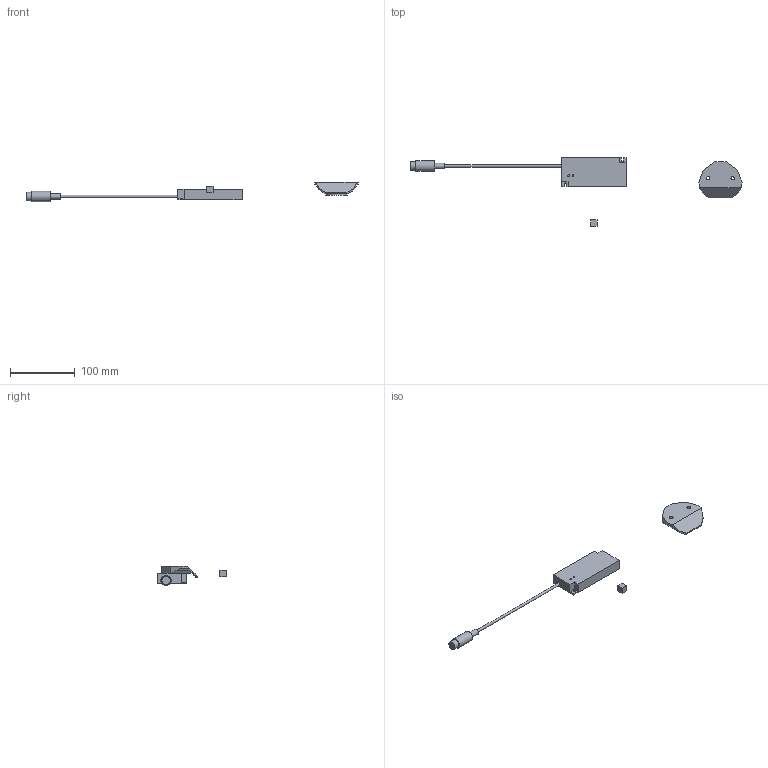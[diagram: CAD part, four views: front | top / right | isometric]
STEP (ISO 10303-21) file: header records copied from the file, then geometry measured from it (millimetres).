
FILE_DESCRIPTION( ( 'STEP AP214' ), '1' );
FILE_NAME( 'C:/Users/KOSH/Desktop/2021/Delta - cabinet interior/9258029.stp', '2021-04-09T13:22:06', ( '' ), ( '' ), ' ', 'PARTsolutions', ' ' );
FILE_SCHEMA( ( 'AUTOMOTIVE_DESIGN { 1 0 10303 214 1 1 1 1 }' ) );
Length unit declared in the file: millimetre
Products named in the file (4): 187857263 9258029_1; _9258029_1; _betribsanleitung; _9142067
Assembly tree (3 placements, depth 2):
  187857263 9258029_1
    _9258029_1
    _betribsanleitung
    _9142067
Bounding box: 514.75 x 106.5 x 29.96 mm (x, y, z)
Volume: 115198.7 mm3; surface area: 28104.9 mm2
Topology: 3 solids, 3 shells, 68 faces, 170 edges, 114 vertices
Faces by surface type: plane 55, cylinder 13
Full cylindrical faces by diameter (mm): 2.5 x1, 3 x1, 3.9 x1, 5.25 x2, 8.82 x1, 13.2 x1, 15.93 x1, 32.9 x1
Entity records: 2571 total; most frequent: CARTESIAN_POINT 341, DIRECTION 333, ORIENTED_EDGE 316, EDGE_CURVE 158, LINE 127, VECTOR 127, VERTEX_POINT 111, AXIS2_PLACEMENT_3D 103
